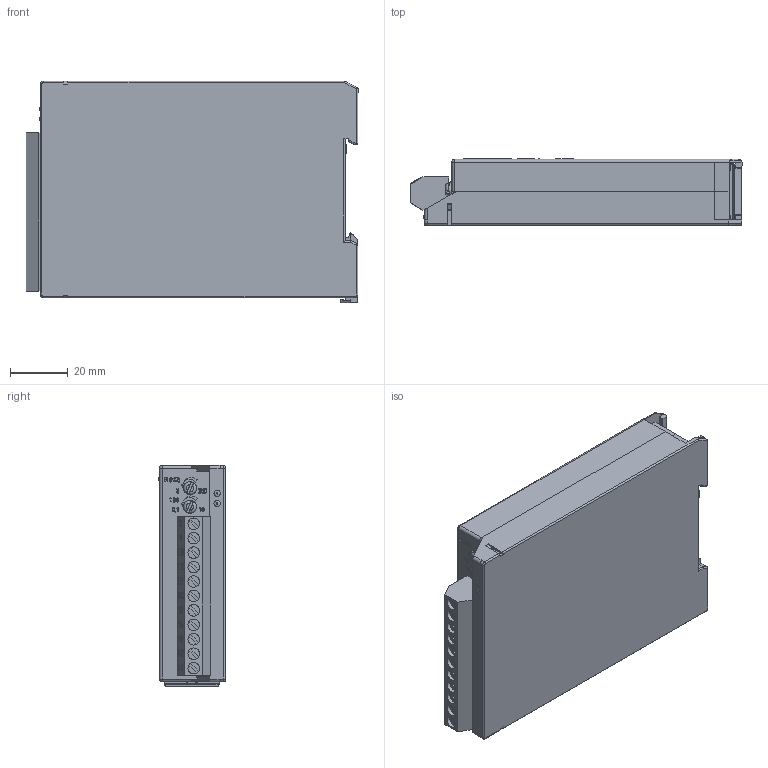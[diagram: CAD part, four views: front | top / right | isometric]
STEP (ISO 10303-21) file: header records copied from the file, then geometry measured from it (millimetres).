
FILE_DESCRIPTION (( 'STEP AP214' ), '1' );
FILE_NAME ('12240-1901-00_3D.STEP', '2014-07-16T09:10:25', ( '' ), ( '' ), 'SwSTEP 2.0', 'SolidWorks 2014', '' );
FILE_SCHEMA (( 'AUTOMOTIVE_DESIGN' ));
Length unit declared in the file: millimetre
Products named in the file (10): 12240-1901-00_3D; Potiknopf_3D f黵 Modelle; 12240-1202-00 Klemmen_3D; 31147111; 12240-1200-01_Typensch_3D; pan head cross recess screw_din_ISO 7045 - M3 x 4 - Z --- 4N; K-Riegel; 12240-1901-00_Leiterpklatte; 12240-1901-00_K-Deckel; 12240-1901-00_UT_3D
Assembly tree (10 placements, depth 2):
  12240-1901-00_3D
    12240-1901-00_UT_3D
    12240-1901-00_K-Deckel
    12240-1901-00_Leiterpklatte
    K-Riegel
    pan head cross recess screw_din_ISO 7045 - M3 x 4 - Z --- 4N
    12240-1200-01_Typensch_3D
    31147111
    12240-1202-00 Klemmen_3D
    Potiknopf_3D f黵 Modelle  x2
Bounding box: 114.98 x 23.01 x 76.65 mm (x, y, z)
Volume: 50838.5 mm3; surface area: 64128 mm2
Topology: 264 solids, 264 shells, 3489 faces, 8353 edges, 5485 vertices
Faces by surface type: plane 2524, bspline 674, cylinder 211, torus 34, cone 24, sphere 22
Full cylindrical faces by diameter (mm): 0.56 x4, 0.7 x4, 1 x11, 1.5 x7, 2.8 x2, 3 x12, 3.1 x11, 3.5 x2, 3.6 x1, 4 x13, 4.2 x1, 5.6 x1, 6 x1, 6.8 x1, 7 x1, 7.2 x1, 9 x1
Entity records: 129005 total; most frequent: CARTESIAN_POINT 43723, ORIENTED_EDGE 16252, DIRECTION 12706, EDGE_CURVE 8126, VECTOR 6262, LINE 6262, VERTEX_POINT 5412, EDGE_LOOP 3826
